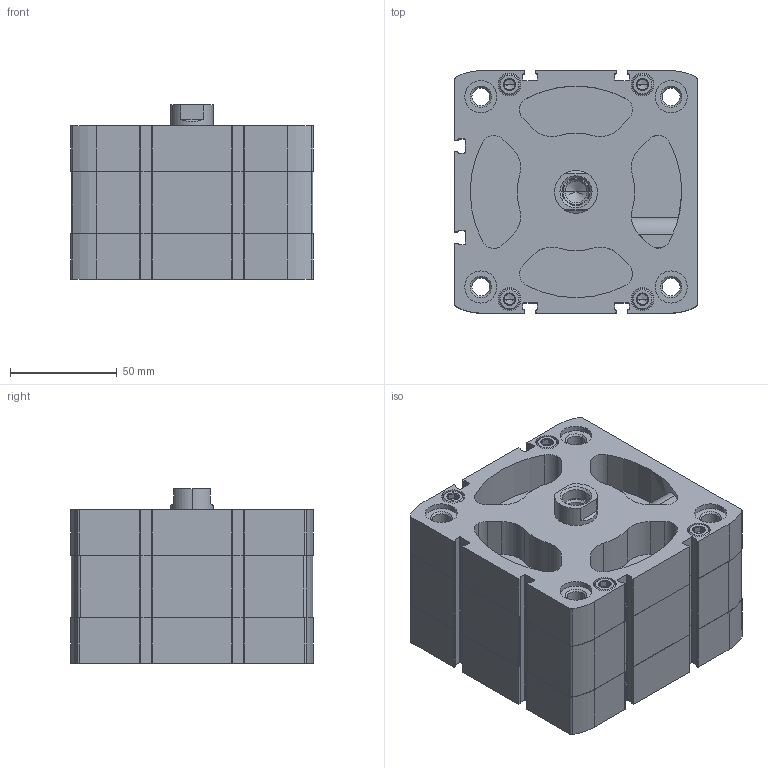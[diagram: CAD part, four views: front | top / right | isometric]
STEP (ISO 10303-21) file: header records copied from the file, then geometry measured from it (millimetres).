
FILE_DESCRIPTION (( 'STEP AP203' ), '1' );
FILE_NAME ('CCN100-5F.STEP', '2020-06-05T18:12:08', ( '' ), ( '' ), 'SwSTEP 2.0', 'SolidWorks 2019', '' );
FILE_SCHEMA (( 'CONFIG_CONTROL_DESIGN' ));
Length unit declared in the file: millimetre
Products named in the file (1): CCN100-5F
Bounding box: 113.5 x 113.5 x 81.8 mm (x, y, z)
Volume: 705011.8 mm3; surface area: 146378.1 mm2
Topology: 2 solids, 2 shells, 628 faces, 1631 edges, 1043 vertices
Faces by surface type: plane 284, cylinder 270, cone 74
Entity records: 20342 total; most frequent: CARTESIAN_POINT 4507, DIRECTION 3451, ORIENTED_EDGE 3226, EDGE_CURVE 1613, AXIS2_PLACEMENT_3D 1281, VERTEX_POINT 1043, VECTOR 889, LINE 889
